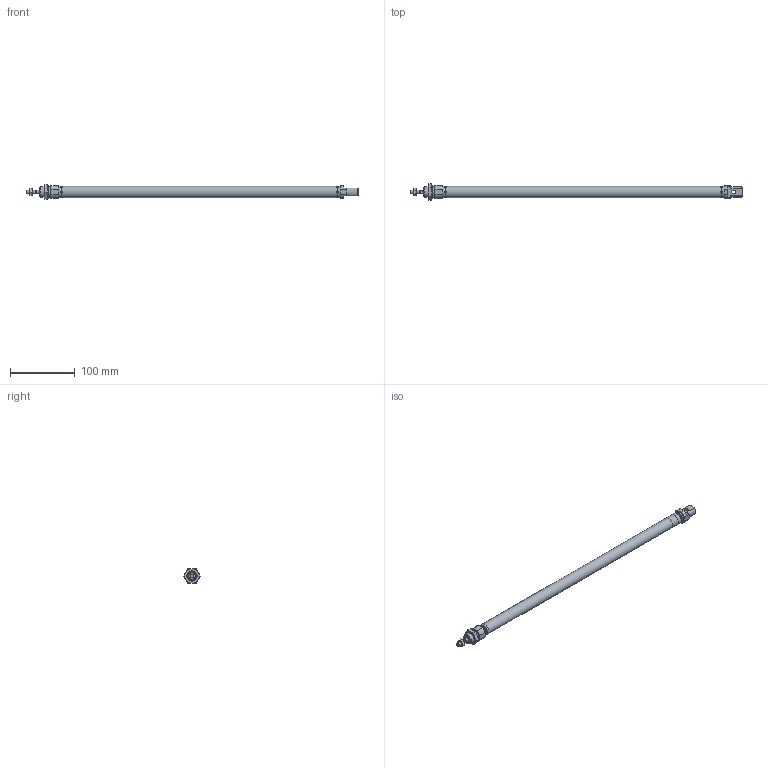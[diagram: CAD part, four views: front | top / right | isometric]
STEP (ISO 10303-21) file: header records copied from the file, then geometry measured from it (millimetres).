
FILE_DESCRIPTION( ( 'STEP AP214' ), '1' );
FILE_NAME( 'C:/Users/emc02044/Desktop/IA IAC/IA16X400-S.stp', '2026-07-20T09:32:11', ( 'License CC BY-ND 4.0' ), ( 'CADENAS' ), ' ', 'PARTsolutions', ' ' );
FILE_SCHEMA( ( 'AUTOMOTIVE_DESIGN { 1 0 10303 214 1 1 1 1 }' ) );
Length unit declared in the file: millimetre
Products named in the file (3): IA16X400-0-S()(0); _16X400-CA-S()_ia_body; _16X400-0_rod
Assembly tree (2 placements, depth 2):
  IA16X400-0-S()(0)
    _16X400-CA-S()_ia_body
    _16X400-0_rod
Bounding box: 511 x 25.4 x 22 mm (x, y, z)
Volume: 50022.3 mm3; surface area: 60699.3 mm2
Topology: 2 solids, 2 shells, 128 faces, 293 edges, 184 vertices
Faces by surface type: plane 51, cone 43, cylinder 28, torus 6
Full cylindrical faces by diameter (mm): 2 x1, 4.134 x2, 5.2 x1, 6 x6, 16 x4, 17.5 x3, 21 x1
Entity records: 4664 total; most frequent: CARTESIAN_POINT 891, DIRECTION 556, ORIENTED_EDGE 520, EDGE_CURVE 260, AXIS2_PLACEMENT_3D 241, VERTEX_POINT 180, EDGE_LOOP 174, FACE_OUTER_BOUND 152
